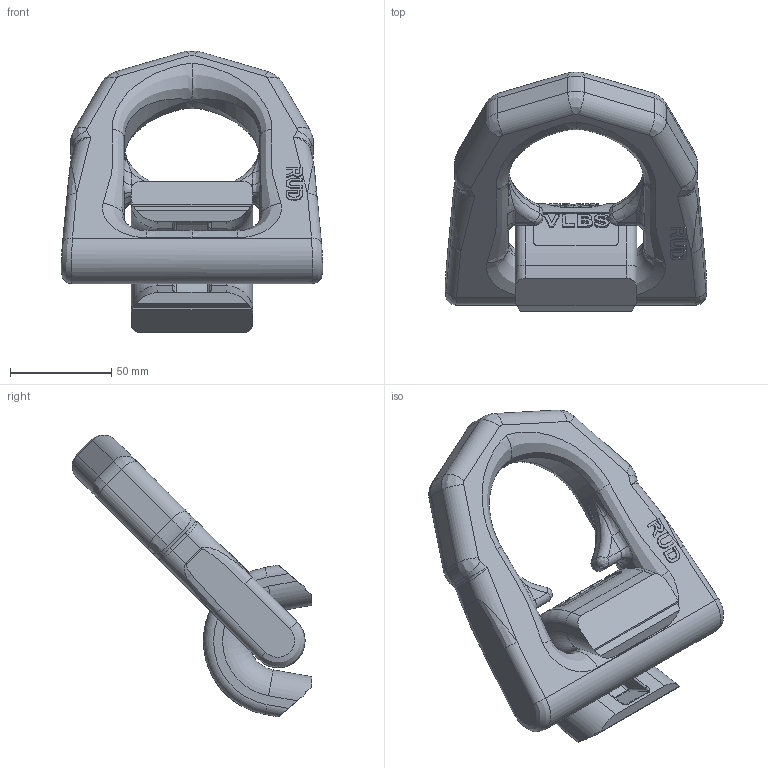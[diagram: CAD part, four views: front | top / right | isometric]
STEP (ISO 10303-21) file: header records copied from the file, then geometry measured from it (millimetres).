
FILE_DESCRIPTION((''),'2;1');
FILE_NAME('001-M32121-P4_ASM','2017-10-06T',('anja.joas'),(''),'PRO/ENGINEER BY PARAMETRIC TECHNOLOGY CORPORATION, 2011490','PRO/ENGINEER BY PARAMETRIC TECHNOLOGY CORPORATION, 2011490','');
FILE_SCHEMA(('CONFIG_CONTROL_DESIGN'));
Length unit declared in the file: millimetre
Products named in the file (3): 001-M32121-P2; 001-M34887-P01; 001-M32121-P4_ASM
Assembly tree (2 placements, depth 2):
  001-M32121-P4_ASM
    001-M32121-P2
    001-M34887-P01
Bounding box: 129.17 x 118.21 x 139.21 mm (x, y, z)
Volume: 367301.8 mm3; surface area: 57082.8 mm2
Topology: 2 solids, 2 shells, 427 faces, 1087 edges, 682 vertices
Faces by surface type: plane 161, cylinder 113, extrusion 73, bspline 60, torus 16, sphere 4
Entity records: 31095 total; most frequent: CARTESIAN_POINT 21403, ORIENTED_EDGE 2174, DIRECTION 1686, EDGE_CURVE 1087, VERTEX_POINT 682, VECTOR 584, AXIS2_PLACEMENT_3D 551, LINE 511
